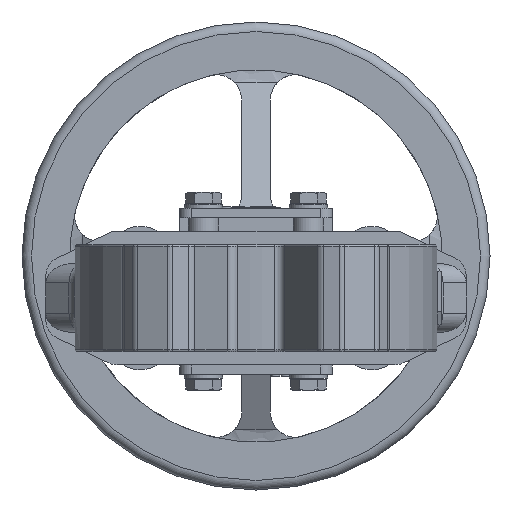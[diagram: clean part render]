
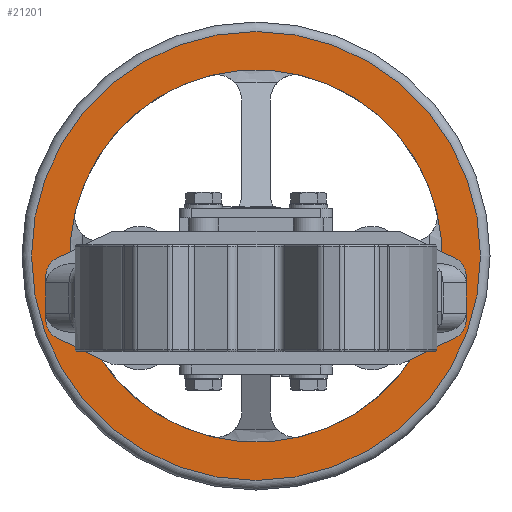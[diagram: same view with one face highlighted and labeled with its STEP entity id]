
A CAD part, front view. The second image highlights one B-rep face of the part: STEP entity #21201.
In plain terms, the highlighted planar face has unit normal (0, -1, 0).
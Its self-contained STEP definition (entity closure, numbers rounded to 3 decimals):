
#17650=CARTESIAN_POINT('',(94.497,451.0,46.013));
#17651=VERTEX_POINT('',#17650);
#18295=CARTESIAN_POINT('',(-24.013,451.0,116.497));
#18296=VERTEX_POINT('',#18295);
#18940=CARTESIAN_POINT('',(-94.497,451.0,-2.013));
#18941=VERTEX_POINT('',#18940);
#19425=CARTESIAN_POINT('',(94.497,451.0,-2.013));
#19426=VERTEX_POINT('',#19425);
#19446=CARTESIAN_POINT('',(0.,451.0,22.));
#19447=DIRECTION('',(0.0,1.0,0.0));
#19448=DIRECTION('',(-1.0,0.0,0.0));
#19449=AXIS2_PLACEMENT_3D('',#19446,#19447,#19448);
#19450=CIRCLE('',#19449,97.5);
#19451=EDGE_CURVE('',#17651,#19426,#19450,.T.);
#19615=CARTESIAN_POINT('',(24.013,451.0,116.497));
#19616=VERTEX_POINT('',#19615);
#19636=CARTESIAN_POINT('',(0.,451.0,22.));
#19637=DIRECTION('',(0.0,1.0,0.0));
#19638=DIRECTION('',(-1.0,0.0,0.0));
#19639=AXIS2_PLACEMENT_3D('',#19636,#19637,#19638);
#19640=CIRCLE('',#19639,97.5);
#19641=EDGE_CURVE('',#18296,#19616,#19640,.T.);
#19805=CARTESIAN_POINT('',(-94.497,451.0,46.013));
#19806=VERTEX_POINT('',#19805);
#19826=CARTESIAN_POINT('',(0.,451.0,22.));
#19827=DIRECTION('',(0.0,1.0,0.0));
#19828=DIRECTION('',(-1.0,0.0,0.0));
#19829=AXIS2_PLACEMENT_3D('',#19826,#19827,#19828);
#19830=CIRCLE('',#19829,97.5);
#19831=EDGE_CURVE('',#18941,#19806,#19830,.T.);
#19853=CARTESIAN_POINT('',(0.,451.0,22.));
#19854=DIRECTION('',(0.0,1.0,0.0));
#19855=DIRECTION('',(-1.0,0.0,0.0));
#19856=AXIS2_PLACEMENT_3D('',#19853,#19854,#19855);
#19857=CIRCLE('',#19856,97.5);
#19858=EDGE_CURVE('',#19616,#17651,#19857,.T.);
#19863=CARTESIAN_POINT('',(0.,451.0,22.));
#19864=DIRECTION('',(0.0,1.0,0.0));
#19865=DIRECTION('',(-1.0,0.0,0.0));
#19866=AXIS2_PLACEMENT_3D('',#19863,#19864,#19865);
#19867=CIRCLE('',#19866,97.5);
#19868=EDGE_CURVE('',#19806,#18296,#19867,.T.);
#19878=CARTESIAN_POINT('',(-24.013,451.0,-72.497));
#19879=VERTEX_POINT('',#19878);
#19880=CARTESIAN_POINT('',(0.,451.0,22.));
#19881=DIRECTION('',(0.0,1.0,0.0));
#19882=DIRECTION('',(-1.0,0.0,0.0));
#19883=AXIS2_PLACEMENT_3D('',#19880,#19881,#19882);
#19884=CIRCLE('',#19883,97.5);
#19885=EDGE_CURVE('',#19879,#18941,#19884,.T.);
#19904=CARTESIAN_POINT('',(24.013,451.0,-72.497));
#19905=VERTEX_POINT('',#19904);
#19912=CARTESIAN_POINT('',(0.,451.0,22.));
#19913=DIRECTION('',(0.0,1.0,0.0));
#19914=DIRECTION('',(-1.0,0.0,0.0));
#19915=AXIS2_PLACEMENT_3D('',#19912,#19913,#19914);
#19916=CIRCLE('',#19915,97.5);
#19917=EDGE_CURVE('',#19426,#19905,#19916,.T.);
#21145=CARTESIAN_POINT('',(117.5,451.0,22.));
#21146=VERTEX_POINT('',#21145);
#21147=CARTESIAN_POINT('',(0.,451.0,22.));
#21148=DIRECTION('',(0.0,1.0,0.0));
#21149=DIRECTION('',(-1.0,0.0,0.0));
#21150=AXIS2_PLACEMENT_3D('',#21147,#21148,#21149);
#21151=CIRCLE('',#21150,117.5);
#21152=EDGE_CURVE('',#21146,#21146,#21151,.T.);
#21177=CARTESIAN_POINT('',(0.,451.0,22.));
#21178=DIRECTION('',(0.0,1.0,0.0));
#21179=DIRECTION('',(1.0,0.0,0.0));
#21180=AXIS2_PLACEMENT_3D('',#21177,#21178,#21179);
#21181=PLANE('',#21180);
#21182=ORIENTED_EDGE('',*,*,#21152,.F.);
#21183=EDGE_LOOP('',(#21182));
#21184=FACE_OUTER_BOUND('',#21183,.T.);
#21185=ORIENTED_EDGE('',*,*,#19885,.T.);
#21186=ORIENTED_EDGE('',*,*,#19831,.T.);
#21187=ORIENTED_EDGE('',*,*,#19868,.T.);
#21188=ORIENTED_EDGE('',*,*,#19641,.T.);
#21189=ORIENTED_EDGE('',*,*,#19858,.T.);
#21190=ORIENTED_EDGE('',*,*,#19451,.T.);
#21191=ORIENTED_EDGE('',*,*,#19917,.T.);
#21192=CARTESIAN_POINT('',(0.,451.0,22.));
#21193=DIRECTION('',(0.0,1.0,0.0));
#21194=DIRECTION('',(-1.0,0.0,0.0));
#21195=AXIS2_PLACEMENT_3D('',#21192,#21193,#21194);
#21196=CIRCLE('',#21195,97.5);
#21197=EDGE_CURVE('',#19905,#19879,#21196,.T.);
#21198=ORIENTED_EDGE('',*,*,#21197,.T.);
#21199=EDGE_LOOP('',(#21185,#21186,#21187,#21188,#21189,#21190,#21191,#21198));
#21200=FACE_BOUND('',#21199,.T.);
#21201=ADVANCED_FACE('',(#21184,#21200),#21181,.F.);
